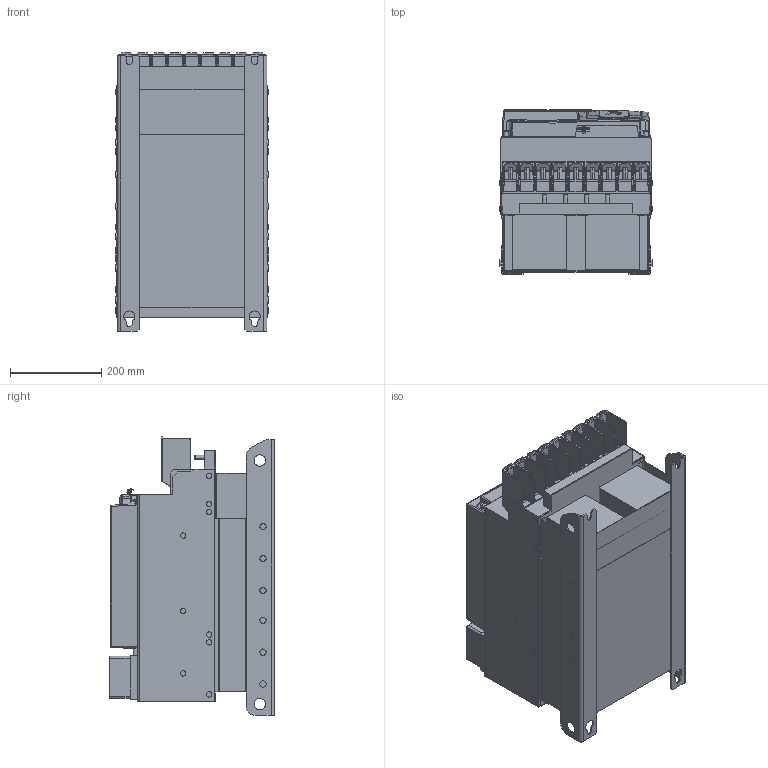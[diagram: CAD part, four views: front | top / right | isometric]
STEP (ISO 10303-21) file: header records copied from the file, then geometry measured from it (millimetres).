
FILE_DESCRIPTION (( 'STEP AP214' ), '1' );
FILE_NAME ('F6-7TR5-K000.STEP', '2021-02-16T09:41:13', ( '' ), ( '' ), 'SwSTEP 2.0', 'SolidWorks 2019', '' );
FILE_SCHEMA (( 'AUTOMOTIVE_DESIGN' ));
Length unit declared in the file: millimetre
Products named in the file (15): 10061503_000; 10061502_000_Deckel (Kundenmodell); 10061522_000; 10061627_000; 10061505_000; 10059765_000; 10044088_000_Kundenmodell; 10043622_000_70F6 Klemme (Kundenmodell); 10035735_000_Kundenmodell; 10059764_000_Blindabdeckung (Kundenmodell); F6-7TR5-K000; 10050699_000_Leistungsteil Luft A (Kundenmodell); 10061504_000_Gehеsebaugruppe mit L’terkarte; 10045475_000_Gehеsebaugruppe F6-7 +L’terkarte (Kundenmodell); 10058413_000
Assembly tree (14 placements, depth 4):
  F6-7TR5-K000
    10050699_000_Leistungsteil Luft A (Kundenmodell)
      10043622_000_70F6 Klemme (Kundenmodell)
        10061522_000
      10061627_000
    10045475_000_Gehеsebaugruppe F6-7 +L’terkarte (Kundenmodell)
      10061502_000_Deckel (Kundenmodell)
        10061503_000
      10044088_000_Kundenmodell
        10061505_000
      10061504_000_Gehеsebaugruppe mit L’terkarte
    10035735_000_Kundenmodell
      10059764_000_Blindabdeckung (Kundenmodell)
        10059765_000
      10058413_000
Bounding box: 335.4 x 361.4 x 611.76 mm (x, y, z)
Volume: 55931668.2 mm3; surface area: 2322024.1 mm2
Topology: 13 solids, 13 shells, 3202 faces, 8213 edges, 5058 vertices
Faces by surface type: plane 1676, cylinder 953, bspline 282, sphere 172, torus 65, cone 54
Entity records: 103566 total; most frequent: CARTESIAN_POINT 27918, ORIENTED_EDGE 16204, DIRECTION 14839, EDGE_CURVE 8102, VECTOR 5257, LINE 5257, VERTEX_POINT 5055, AXIS2_PLACEMENT_3D 4791
